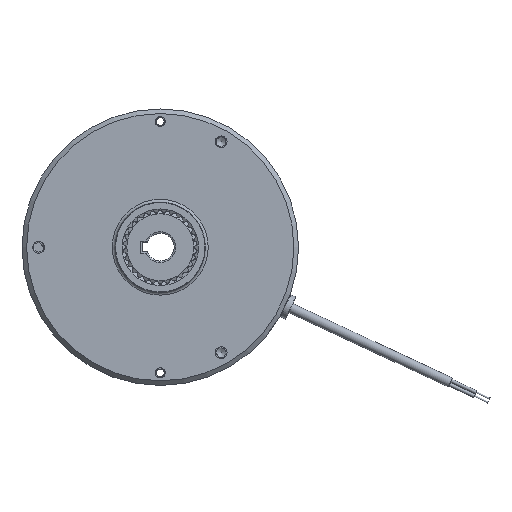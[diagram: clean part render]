
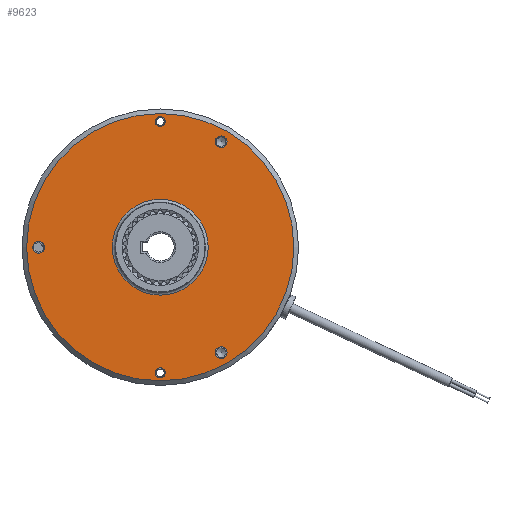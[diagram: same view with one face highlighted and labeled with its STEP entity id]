
A CAD part, left-side view. The second image highlights one B-rep face of the part: STEP entity #9623.
In plain terms, the highlighted planar face has unit normal (-1, 0, 0).
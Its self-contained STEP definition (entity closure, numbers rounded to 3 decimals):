
#765=FACE_BOUND('',#2195,.T.);
#766=FACE_BOUND('',#2196,.T.);
#767=FACE_BOUND('',#2197,.T.);
#768=FACE_BOUND('',#2198,.T.);
#769=FACE_BOUND('',#2199,.T.);
#770=FACE_BOUND('',#2200,.T.);
#1108=CIRCLE('',#10451,2.7);
#1109=CIRCLE('',#10452,2.7);
#1110=CIRCLE('',#10454,2.7);
#1111=CIRCLE('',#10455,2.7);
#1112=CIRCLE('',#10457,72.5);
#1113=CIRCLE('',#10459,26.);
#1114=CIRCLE('',#10460,3.2);
#1115=CIRCLE('',#10461,3.2);
#1116=CIRCLE('',#10462,3.2);
#1660=FACE_OUTER_BOUND('',#2194,.T.);
#2194=EDGE_LOOP('',(#7455));
#2195=EDGE_LOOP('',(#7456,#7457));
#2196=EDGE_LOOP('',(#7458,#7459));
#2197=EDGE_LOOP('',(#7460));
#2198=EDGE_LOOP('',(#7461));
#2199=EDGE_LOOP('',(#7462));
#2200=EDGE_LOOP('',(#7463));
#4020=VERTEX_POINT('',#16197);
#4021=VERTEX_POINT('',#16198);
#4022=VERTEX_POINT('',#16203);
#4023=VERTEX_POINT('',#16204);
#4024=VERTEX_POINT('',#16209);
#4025=VERTEX_POINT('',#16213);
#4026=VERTEX_POINT('',#16215);
#4027=VERTEX_POINT('',#16217);
#4028=VERTEX_POINT('',#16219);
#5243=EDGE_CURVE('',#4020,#4021,#1108,.T.);
#5244=EDGE_CURVE('',#4021,#4020,#1109,.T.);
#5246=EDGE_CURVE('',#4022,#4023,#1110,.T.);
#5247=EDGE_CURVE('',#4023,#4022,#1111,.T.);
#5250=EDGE_CURVE('',#4024,#4024,#1112,.T.);
#5251=EDGE_CURVE('',#4025,#4025,#1113,.T.);
#5252=EDGE_CURVE('',#4026,#4026,#1114,.T.);
#5253=EDGE_CURVE('',#4027,#4027,#1115,.T.);
#5254=EDGE_CURVE('',#4028,#4028,#1116,.T.);
#7455=ORIENTED_EDGE('',*,*,#5250,.F.);
#7456=ORIENTED_EDGE('',*,*,#5243,.T.);
#7457=ORIENTED_EDGE('',*,*,#5244,.T.);
#7458=ORIENTED_EDGE('',*,*,#5246,.T.);
#7459=ORIENTED_EDGE('',*,*,#5247,.T.);
#7460=ORIENTED_EDGE('',*,*,#5251,.T.);
#7461=ORIENTED_EDGE('',*,*,#5252,.T.);
#7462=ORIENTED_EDGE('',*,*,#5253,.T.);
#7463=ORIENTED_EDGE('',*,*,#5254,.T.);
#8799=PLANE('',#10458);
#9623=ADVANCED_FACE('',(#1660,#765,#766,#767,#768,#769,#770),#8799,.T.);
#10451=AXIS2_PLACEMENT_3D('',#16199,#12402,#12403);
#10452=AXIS2_PLACEMENT_3D('',#16200,#12404,#12405);
#10454=AXIS2_PLACEMENT_3D('',#16205,#12409,#12410);
#10455=AXIS2_PLACEMENT_3D('',#16206,#12411,#12412);
#10457=AXIS2_PLACEMENT_3D('',#16211,#12417,#12418);
#10458=AXIS2_PLACEMENT_3D('',#16212,#12419,#12420);
#10459=AXIS2_PLACEMENT_3D('',#16214,#12421,#12422);
#10460=AXIS2_PLACEMENT_3D('',#16216,#12423,#12424);
#10461=AXIS2_PLACEMENT_3D('',#16218,#12425,#12426);
#10462=AXIS2_PLACEMENT_3D('',#16220,#12427,#12428);
#12402=DIRECTION('center_axis',(1.,0.,0.));
#12403=DIRECTION('ref_axis',(0.,0.,1.));
#12404=DIRECTION('center_axis',(1.,0.,0.));
#12405=DIRECTION('ref_axis',(0.,0.,1.));
#12409=DIRECTION('center_axis',(1.,0.,0.));
#12410=DIRECTION('ref_axis',(0.,0.,1.));
#12411=DIRECTION('center_axis',(1.,0.,0.));
#12412=DIRECTION('ref_axis',(0.,0.,1.));
#12417=DIRECTION('center_axis',(1.,0.,0.));
#12418=DIRECTION('ref_axis',(0.,-1.,0.));
#12419=DIRECTION('center_axis',(-1.,0.,0.));
#12420=DIRECTION('ref_axis',(0.,0.,1.));
#12421=DIRECTION('center_axis',(1.,0.,0.));
#12422=DIRECTION('ref_axis',(0.,0.,1.));
#12423=DIRECTION('center_axis',(1.,0.,0.));
#12424=DIRECTION('ref_axis',(0.,0.,-1.));
#12425=DIRECTION('center_axis',(1.,0.,0.));
#12426=DIRECTION('ref_axis',(0.,0.,-1.));
#12427=DIRECTION('center_axis',(1.,0.,0.));
#12428=DIRECTION('ref_axis',(0.,0.,-1.));
#16197=CARTESIAN_POINT('',(-37.1,0.,-65.45));
#16198=CARTESIAN_POINT('',(-37.1,0.,-70.85));
#16199=CARTESIAN_POINT('Origin',(-37.1,0.,-68.15));
#16200=CARTESIAN_POINT('Origin',(-37.1,0.,-68.15));
#16203=CARTESIAN_POINT('',(-37.1,0.,70.85));
#16204=CARTESIAN_POINT('',(-37.1,0.,65.45));
#16205=CARTESIAN_POINT('Origin',(-37.1,0.,68.15));
#16206=CARTESIAN_POINT('Origin',(-37.1,0.,68.15));
#16209=CARTESIAN_POINT('',(-37.1,72.5,0.));
#16211=CARTESIAN_POINT('Origin',(-37.1,0.,0.));
#16212=CARTESIAN_POINT('Origin',(-37.1,37.5,0.));
#16213=CARTESIAN_POINT('',(-37.1,0.,-26.));
#16214=CARTESIAN_POINT('Origin',(-37.1,0.,0.));
#16215=CARTESIAN_POINT('',(-37.1,-33.,-53.958));
#16216=CARTESIAN_POINT('Origin',(-37.1,-33.,-57.158));
#16217=CARTESIAN_POINT('',(-37.1,66.,3.2));
#16218=CARTESIAN_POINT('Origin',(-37.1,66.,0.));
#16219=CARTESIAN_POINT('',(-37.1,-33.,60.358));
#16220=CARTESIAN_POINT('Origin',(-37.1,-33.,57.158));
